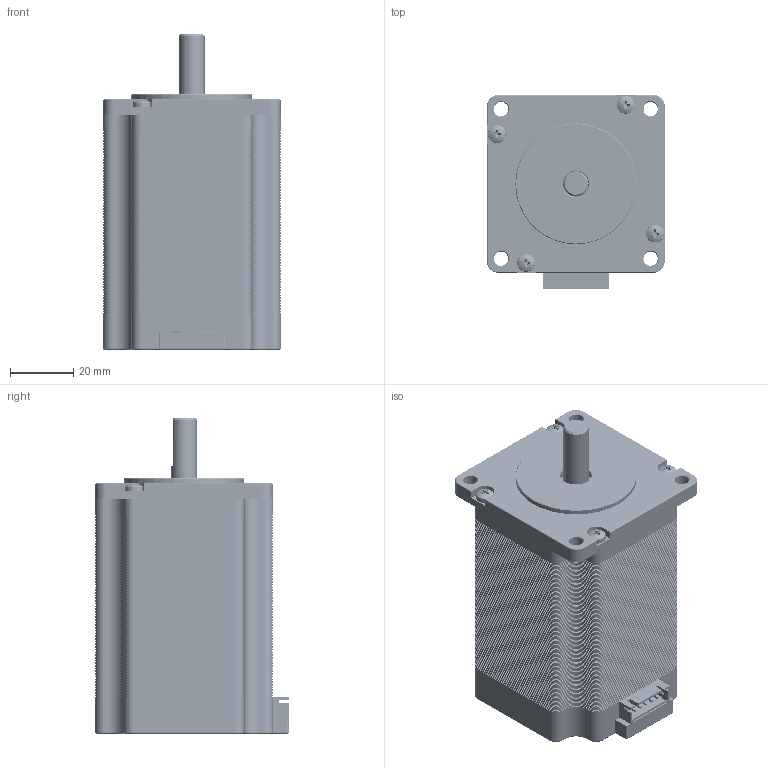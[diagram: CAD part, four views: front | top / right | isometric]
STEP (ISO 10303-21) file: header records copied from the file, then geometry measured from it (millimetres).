
FILE_DESCRIPTION (( 'STEP AP214' ), '1' );
FILE_NAME ('A16K-G268.STEP', '2019-06-27T04:26:23', ( '10118109' ), ( '' ), 'SwSTEP 2.0', 'SolidWorks 2018', '' );
FILE_SCHEMA (( 'AUTOMOTIVE_DESIGN' ));
Length unit declared in the file: millimetre
Products named in the file (1): A16K-G268
Bounding box: 56.1 x 61 x 99.6 mm (x, y, z)
Volume: 2344.5 mm3; surface area: 42617.6 mm2
Topology: 8 solids, 9 shells, 6423 faces, 18441 edges, 12153 vertices
Faces by surface type: plane 3407, cylinder 2877, cone 67, torus 36, bspline 26, sphere 10
Entity records: 218472 total; most frequent: CARTESIAN_POINT 37607, DIRECTION 37138, ORIENTED_EDGE 36870, EDGE_CURVE 18435, AXIS2_PLACEMENT_3D 12402, VECTOR 12334, LINE 12334, VERTEX_POINT 12153
